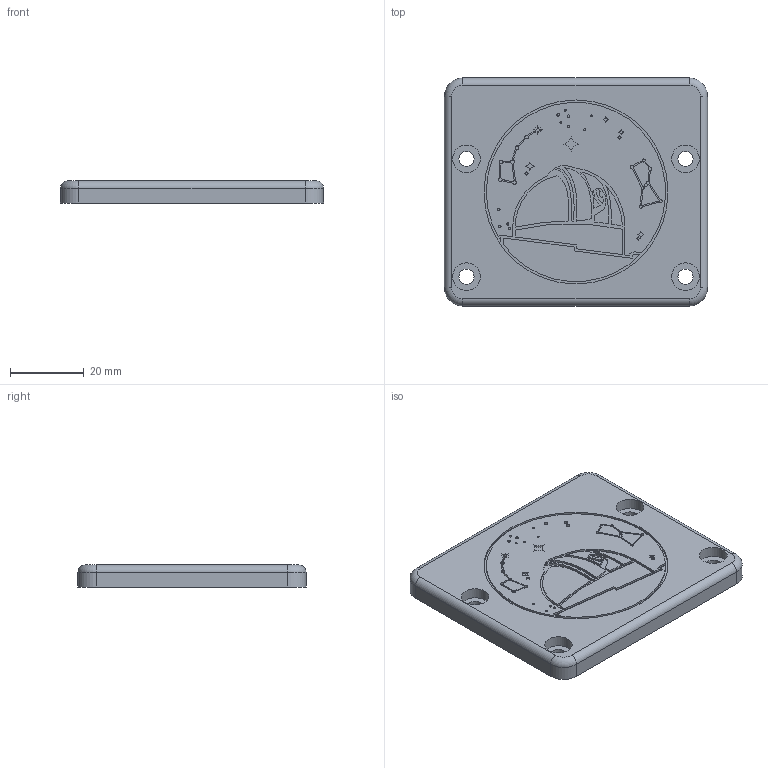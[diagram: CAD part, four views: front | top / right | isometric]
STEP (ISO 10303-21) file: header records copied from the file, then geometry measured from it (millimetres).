
FILE_DESCRIPTION(/* description */ ('STEP AP242','CAx-IF Rec.Pracs.---Representation and Presentation of Product Manufacturing Information (PMI)---4.0---2014-10-13','CAx-IF Rec.Pracs.---3D Tessellated Geometry---0.4---2014-09-14','2;1'),/* implementation_level */ '2;1');
FILE_NAME(/* name */ '67516f60fb67772fa30a8cb1',/* time_stamp */ '2024-12-05T09:16:17Z',/* author */ (''),/* organization */ (''),/* preprocessor_version */ 'ST-DEVELOPER v20',/* originating_system */ 'ONSHAPE BY PTC INC, 1.190',/* authorisation */ ' ');
FILE_SCHEMA (('AP242_MANAGED_MODEL_BASED_3D_ENGINEERING_MIM_LF { 1 0 10303 442 1 1 4 }'));
Length unit declared in the file: metre
Products named in the file (1): I3D01 - Club cover
Bounding box: 71.5 x 62 x 6 mm (x, y, z)
Volume: 14861.9 mm3; surface area: 11724.7 mm2
Topology: 1 solids, 1 shells, 259 faces, 650 edges, 432 vertices
Faces by surface type: plane 125, cylinder 106, bspline 24, torus 4
Full cylindrical faces by diameter (mm): 0.528 x1, 0.546 x1, 0.55 x1, 0.551 x1, 0.565 x1, 0.61 x2, 0.636 x1, 0.671 x1, 0.699 x1, 0.749 x1, 4.1 x4, 7.5 x4, 50 x1
Entity records: 7786 total; most frequent: CARTESIAN_POINT 1578, DIRECTION 1266, ORIENTED_EDGE 1252, EDGE_CURVE 626, AXIS2_PLACEMENT_3D 452, VERTEX_POINT 428, LINE 362, VECTOR 362
